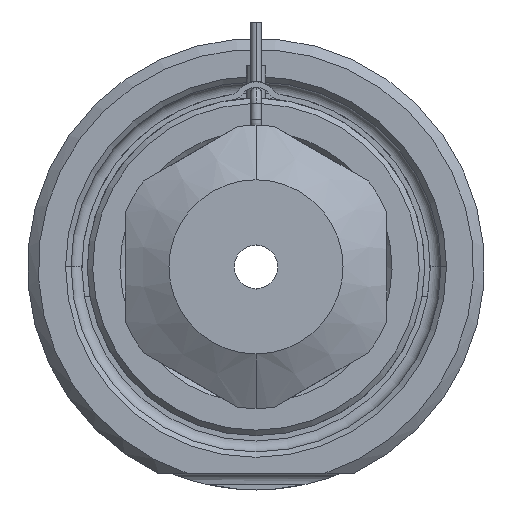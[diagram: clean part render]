
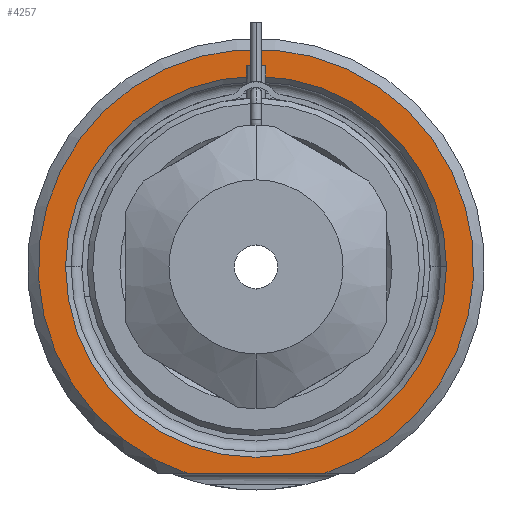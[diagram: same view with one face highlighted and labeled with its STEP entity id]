
A CAD part, front view. The second image highlights one B-rep face of the part: STEP entity #4257.
In plain terms, the highlighted planar face has unit normal (0, -1, 0).
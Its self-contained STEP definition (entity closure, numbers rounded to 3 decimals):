
#674=CARTESIAN_POINT('',(0.,0.,0.));
#675=DIRECTION('',(0.,-1.,0.));
#676=DIRECTION('',(0.312,0.,-0.95));
#677=AXIS2_PLACEMENT_3D('',#674,#675,#676);
#698=DIRECTION('',(1.,0.,0.));
#699=VECTOR('',#698,12.49);
#700=CARTESIAN_POINT('',(-6.245,0.,-19.));
#701=LINE('',#700,#699);
#702=CARTESIAN_POINT('',(0.,0.,0.));
#703=DIRECTION('',(0.,1.,0.));
#704=DIRECTION('',(-1.,0.,0.));
#705=AXIS2_PLACEMENT_3D('',#702,#703,#704);
#707=CARTESIAN_POINT('',(0.,0.,0.));
#708=DIRECTION('',(0.,1.,0.));
#709=DIRECTION('',(1.,0.,0.));
#710=AXIS2_PLACEMENT_3D('',#707,#708,#709);
#2789=CARTESIAN_POINT('',(-17.5,0.,0.));
#2790=CARTESIAN_POINT('',(17.5,0.,0.));
#2791=VERTEX_POINT('',#2789);
#2792=VERTEX_POINT('',#2790);
#2833=CARTESIAN_POINT('',(-6.245,0.,-19.));
#2834=CARTESIAN_POINT('',(6.245,0.,-19.));
#2835=VERTEX_POINT('',#2833);
#2836=VERTEX_POINT('',#2834);
#4242=CARTESIAN_POINT('',(0.,0.,0.));
#4243=DIRECTION('',(0.,-1.,0.));
#4244=DIRECTION('',(1.,0.,0.));
#4245=AXIS2_PLACEMENT_3D('',#4242,#4243,#4244);
#4246=PLANE('',#4245);
#4247=ORIENTED_EDGE('',*,*,#4174,.F.);
#4248=ORIENTED_EDGE('',*,*,#4234,.F.);
#4249=EDGE_LOOP('',(#4247,#4248));
#4250=FACE_OUTER_BOUND('',#4249,.F.);
#4252=ORIENTED_EDGE('',*,*,#4251,.F.);
#4254=ORIENTED_EDGE('',*,*,#4253,.F.);
#4255=EDGE_LOOP('',(#4252,#4254));
#4256=FACE_BOUND('',#4255,.F.);
#4257=ADVANCED_FACE('',(#4250,#4256),#4246,.T.);
#678=CIRCLE('',#677,20.);
#706=CIRCLE('',#705,17.5);
#711=CIRCLE('',#710,17.5);
#4174=EDGE_CURVE('',#2835,#2836,#701,.T.);
#4234=EDGE_CURVE('',#2836,#2835,#678,.T.);
#4251=EDGE_CURVE('',#2791,#2792,#706,.T.);
#4253=EDGE_CURVE('',#2792,#2791,#711,.T.);
